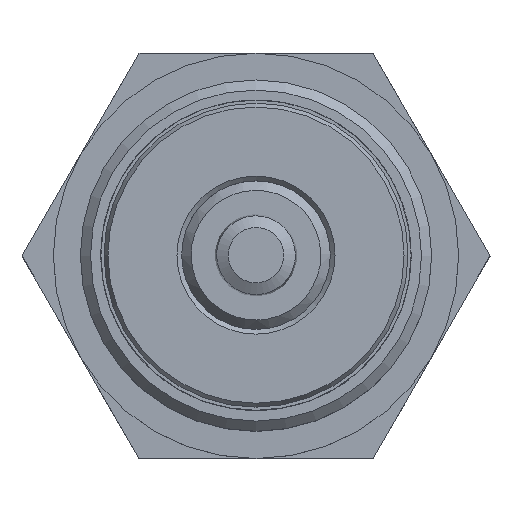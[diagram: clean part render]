
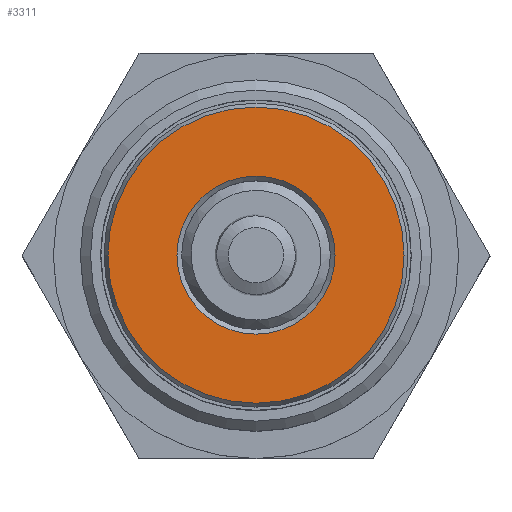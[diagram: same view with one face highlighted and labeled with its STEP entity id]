
A CAD part, top view. The second image highlights one B-rep face of the part: STEP entity #3311.
In plain terms, the highlighted planar face has unit normal (0, 0, 1).
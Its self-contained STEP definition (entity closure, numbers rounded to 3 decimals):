
#47 = VERTEX_POINT ( 'NONE', #15147 ) ;
#2128 = CARTESIAN_POINT ( 'NONE',  ( 0., 0., 82.5 ) ) ;
#3311 = ADVANCED_FACE ( 'NONE', ( #19982, #24494 ), #11356, .T. ) ;
#4102 = DIRECTION ( 'NONE',  ( 1., 0., 0. ) ) ;
#4233 = DIRECTION ( 'NONE',  ( 0., 0., 1. ) ) ;
#5374 = ORIENTED_EDGE ( 'NONE', *, *, #20104, .T. ) ;
#5750 = CARTESIAN_POINT ( 'NONE',  ( 0., 0., 82.5 ) ) ;
#5920 = EDGE_LOOP ( 'NONE', ( #18306 ) ) ;
#5993 = AXIS2_PLACEMENT_3D ( 'NONE', #2128, #15752, #4102 ) ;
#6914 = CARTESIAN_POINT ( 'NONE',  ( 11.7, 0., 82.5 ) ) ;
#7725 = DIRECTION ( 'NONE',  ( 1., 0., 0. ) ) ;
#8533 = EDGE_CURVE ( 'NONE', #24081, #24081, #18257, .T. ) ;
#11356 = PLANE ( 'NONE',  #23483 ) ;
#15147 = CARTESIAN_POINT ( 'NONE',  ( 21.923, 0., 82.5 ) ) ;
#15752 = DIRECTION ( 'NONE',  ( 0., 0., -1. ) ) ;
#15872 = CARTESIAN_POINT ( 'NONE',  ( 0., 0., 82.5 ) ) ;
#15954 = CIRCLE ( 'NONE', #17914, 21.923 ) ;
#17825 = DIRECTION ( 'NONE',  ( 1., 0., 0. ) ) ;
#17914 = AXIS2_PLACEMENT_3D ( 'NONE', #15872, #4233, #17825 ) ;
#18257 = CIRCLE ( 'NONE', #5993, 11.7 ) ;
#18306 = ORIENTED_EDGE ( 'NONE', *, *, #8533, .T. ) ;
#19362 = DIRECTION ( 'NONE',  ( 0., 0., 1. ) ) ;
#19599 = EDGE_LOOP ( 'NONE', ( #5374 ) ) ;
#19982 = FACE_BOUND ( 'NONE', #5920, .T. ) ;
#20104 = EDGE_CURVE ( 'NONE', #47, #47, #15954, .T. ) ;
#23483 = AXIS2_PLACEMENT_3D ( 'NONE', #5750, #19362, #7725 ) ;
#24081 = VERTEX_POINT ( 'NONE', #6914 ) ;
#24494 = FACE_OUTER_BOUND ( 'NONE', #19599, .T. ) ;
